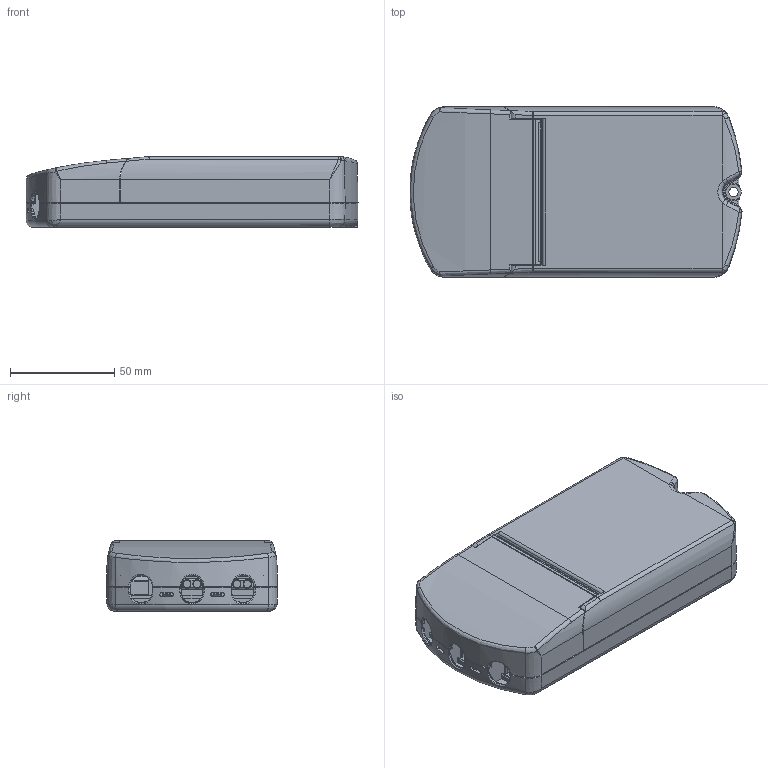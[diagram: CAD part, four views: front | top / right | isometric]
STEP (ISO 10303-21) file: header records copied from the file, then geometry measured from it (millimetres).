
FILE_DESCRIPTION((''),'2;1');
FILE_NAME('15013555Z_DMEC_160X82X34','2020-01-27T15:46:40',('emanuel.wild'),(''),'CREO PARAMETRIC BY PTC INC, 2019164','CREO PARAMETRIC BY PTC INC, 2019164','');
FILE_SCHEMA(('CONFIG_CONTROL_DESIGN'));
Products named in the file (1): 15013555Z_DMEC_160X82X34
Bounding box: 159.44 x 82 x 34 mm (x, y, z)
Volume: 291075.2 mm3; surface area: 94821.3 mm2
Topology: 1 solids, 13 shells, 2073 faces, 5816 edges, 3772 vertices
Faces by surface type: plane 1233, cylinder 481, bspline 138, cone 116, torus 55, sphere 50
Entity records: 73892 total; most frequent: CARTESIAN_POINT 21946, ORIENTED_EDGE 11522, DIRECTION 9714, EDGE_CURVE 5812, VECTOR 3832, LINE 3832, VERTEX_POINT 3772, AXIS2_PLACEMENT_3D 2941
